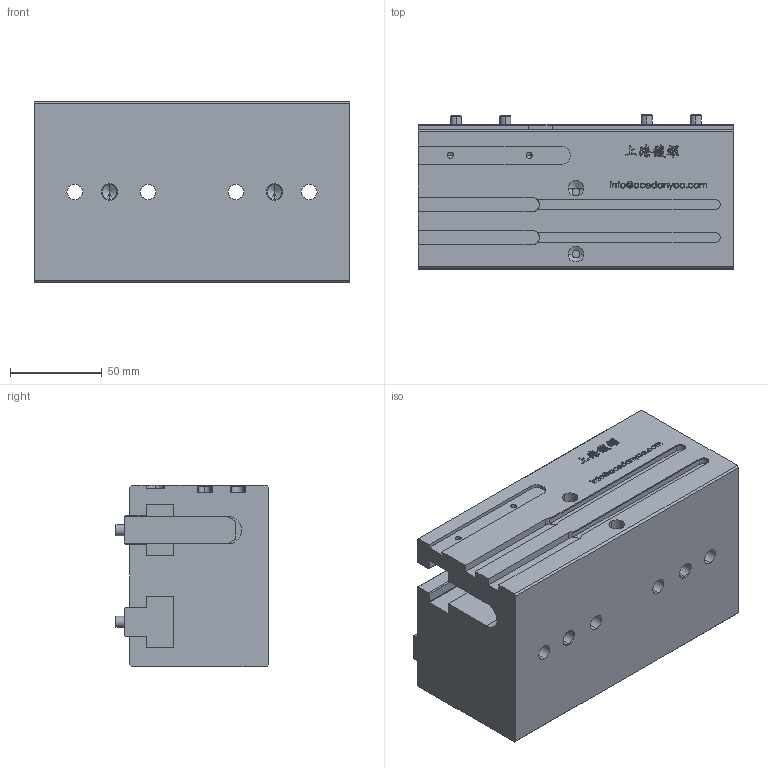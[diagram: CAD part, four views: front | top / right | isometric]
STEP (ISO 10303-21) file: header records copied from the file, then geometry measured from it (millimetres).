
FILE_DESCRIPTION (( 'STEP AP203' ), '1' );
FILE_NAME ('GPL40-60-原始檔-組合-W106.04.18.STEP', '2017-04-17T09:24:17', ( 'DanyaoCAD' ), ( '' ), 'SwSTEP 2.0', 'SolidWorks 2016', '' );
FILE_SCHEMA (( 'CONFIG_CONTROL_DESIGN' ));
Length unit declared in the file: millimetre
Products named in the file (3): Corpo; Griffa; GPL40-60-原始檔-組合-W106.04.18
Assembly tree (3 placements, depth 2):
  GPL40-60-原始檔-組合-W106.04.18
    Corpo
    Griffa  x2
Bounding box: 172 x 84 x 99 mm (x, y, z)
Volume: 1130774.9 mm3; surface area: 151448.4 mm2
Topology: 3 solids, 3 shells, 1023 faces, 2845 edges, 1874 vertices
Faces by surface type: bspline 640, plane 273, cylinder 74, cone 36
Entity records: 47710 total; most frequent: CARTESIAN_POINT 26679, ORIENTED_EDGE 5422, EDGE_CURVE 2711, DIRECTION 2255, VERTEX_POINT 1801, B_SPLINE_CURVE_WITH_KNOTS 1284, VECTOR 1281, LINE 1281
